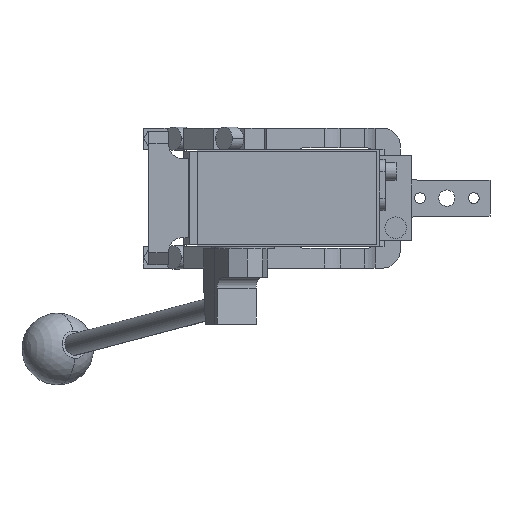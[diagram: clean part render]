
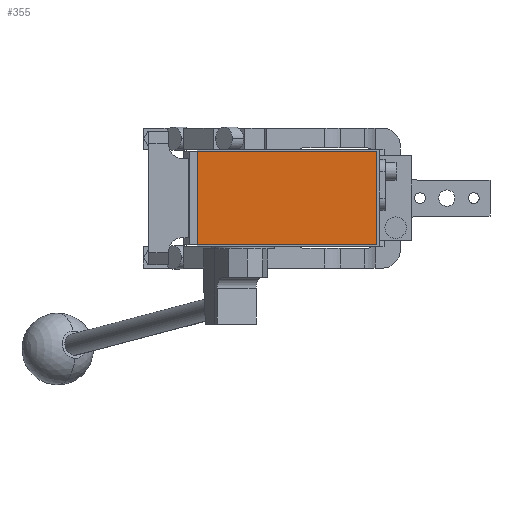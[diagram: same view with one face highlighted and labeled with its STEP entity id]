
A CAD part, front view. The second image highlights one B-rep face of the part: STEP entity #355.
In plain terms, the highlighted planar face has unit normal (0, -1, 0).
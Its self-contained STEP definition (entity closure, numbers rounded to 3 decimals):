
#181 = VERTEX_POINT ( 'NONE', #528 ) ;
#256 = DIRECTION ( 'NONE',  ( 0., 0., -1. ) ) ;
#355 = ADVANCED_FACE ( 'NONE', ( #1509 ), #7770, .T. ) ;
#528 = CARTESIAN_POINT ( 'NONE',  ( -19., -286.5, 26. ) ) ;
#1276 = CARTESIAN_POINT ( 'NONE',  ( -19., -286.5, -26. ) ) ;
#1509 = FACE_OUTER_BOUND ( 'NONE', #2423, .T. ) ;
#1797 = DIRECTION ( 'NONE',  ( 0., 0., -1. ) ) ;
#2423 = EDGE_LOOP ( 'NONE', ( #13068, #6535, #16190, #3785 ) ) ;
#3439 = CARTESIAN_POINT ( 'NONE',  ( 81., -286.5, 26. ) ) ;
#3785 = ORIENTED_EDGE ( 'NONE', *, *, #10888, .T. ) ;
#3985 = EDGE_CURVE ( 'NONE', #13671, #7724, #5928, .T. ) ;
#4721 = VECTOR ( 'NONE', #15895, 1000. ) ;
#5128 = VECTOR ( 'NONE', #11279, 1000. ) ;
#5201 = CARTESIAN_POINT ( 'NONE',  ( -19., -286.5, -26. ) ) ;
#5849 = CARTESIAN_POINT ( 'NONE',  ( 81., -286.5, 26. ) ) ;
#5928 = LINE ( 'NONE', #5849, #11716 ) ;
#6234 = EDGE_CURVE ( 'NONE', #15351, #13671, #12512, .T. ) ;
#6535 = ORIENTED_EDGE ( 'NONE', *, *, #6234, .T. ) ;
#7129 = CARTESIAN_POINT ( 'NONE',  ( 81., -286.5, -26. ) ) ;
#7724 = VERTEX_POINT ( 'NONE', #3439 ) ;
#7770 = PLANE ( 'NONE',  #9050 ) ;
#8210 = LINE ( 'NONE', #13257, #4721 ) ;
#8722 = VECTOR ( 'NONE', #1797, 1000. ) ;
#9050 = AXIS2_PLACEMENT_3D ( 'NONE', #12733, #11493, #256 ) ;
#9465 = EDGE_CURVE ( 'NONE', #181, #15351, #13175, .T. ) ;
#10547 = CARTESIAN_POINT ( 'NONE',  ( -19., -286.5, 26. ) ) ;
#10888 = EDGE_CURVE ( 'NONE', #7724, #181, #8210, .T. ) ;
#11279 = DIRECTION ( 'NONE',  ( 1., 0., 0. ) ) ;
#11493 = DIRECTION ( 'NONE',  ( 0., -1., 0. ) ) ;
#11716 = VECTOR ( 'NONE', #11934, 1000. ) ;
#11934 = DIRECTION ( 'NONE',  ( 0., 0., 1. ) ) ;
#12512 = LINE ( 'NONE', #1276, #5128 ) ;
#12733 = CARTESIAN_POINT ( 'NONE',  ( 0., -286.5, 0. ) ) ;
#13068 = ORIENTED_EDGE ( 'NONE', *, *, #9465, .T. ) ;
#13175 = LINE ( 'NONE', #10547, #8722 ) ;
#13257 = CARTESIAN_POINT ( 'NONE',  ( -19., -286.5, 26. ) ) ;
#13671 = VERTEX_POINT ( 'NONE', #7129 ) ;
#15351 = VERTEX_POINT ( 'NONE', #5201 ) ;
#15895 = DIRECTION ( 'NONE',  ( -1., 0., 0. ) ) ;
#16190 = ORIENTED_EDGE ( 'NONE', *, *, #3985, .T. ) ;
